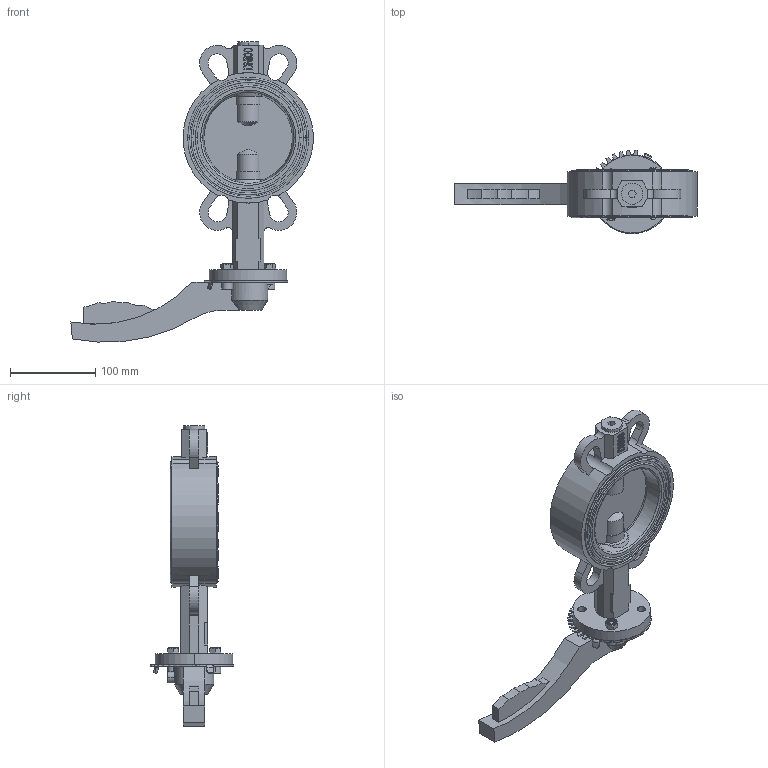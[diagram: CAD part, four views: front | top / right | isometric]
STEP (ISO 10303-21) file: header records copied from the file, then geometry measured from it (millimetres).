
FILE_DESCRIPTION((''),'2;1');
FILE_NAME('SB_RUCHKA_ASM','2023-12-24T',('DIMA'),(''),'PRO/ENGINEER BY PARAMETRIC TECHNOLOGY CORPORATION, 2008020','PRO/ENGINEER BY PARAMETRIC TECHNOLOGY CORPORATION, 2008020','');
FILE_SCHEMA(('CONFIG_CONTROL_DESIGN'));
Length unit declared in the file: millimetre
Products named in the file (18): KORPUS; REZ; DISK; SHTIR_1; ZAGLUSHKA; O-RING; SHTIR_2; SHAIBA_RAZREZ; SHAIBA; KOLCO_26_GOST13943; VTULKA; MANZET_REZ; SB_ASM; PLASTINA; RUCHKA; V-11738-M8X20; G-5915-M8; SB_RUCHKA_ASM
Assembly tree (26 placements, depth 3):
  SB_RUCHKA_ASM
    SB_ASM
      KORPUS
      REZ
      DISK
      SHTIR_1
      ZAGLUSHKA
      O-RING  x2
      SHTIR_2
      SHAIBA_RAZREZ
      SHAIBA  x2
      KOLCO_26_GOST13943
      VTULKA  x5
      MANZET_REZ
    PLASTINA
    RUCHKA
    V-11738-M8X20  x3
    G-5915-M8  x2
Bounding box: 284.23 x 97.83 x 352.09 mm (x, y, z)
Volume: 1067209.2 mm3; surface area: 294969.6 mm2
Topology: 25 solids, 32 shells, 710 faces, 1821 edges, 1192 vertices
Faces by surface type: plane 406, cylinder 217, cone 55, torus 28, bspline 4
Entity records: 20467 total; most frequent: CARTESIAN_POINT 4140, DIRECTION 3471, ORIENTED_EDGE 3240, EDGE_CURVE 1631, AXIS2_PLACEMENT_3D 1226, VERTEX_POINT 1068, VECTOR 1019, LINE 1019
